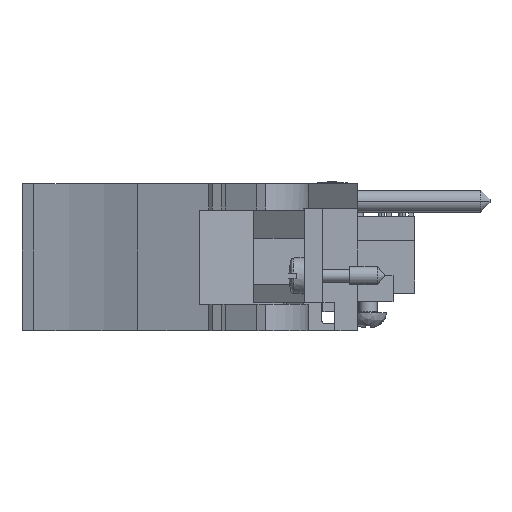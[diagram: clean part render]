
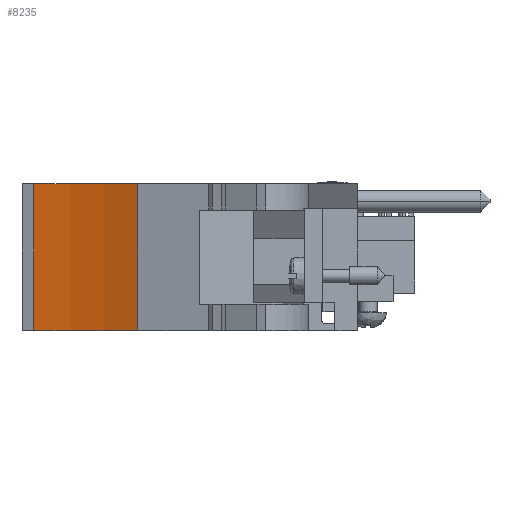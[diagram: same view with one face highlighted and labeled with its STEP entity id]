
A CAD part, front view. The second image highlights one B-rep face of the part: STEP entity #8235.
In plain terms, the highlighted cylindrical face has radius 51.46 mm (diameter 102.919 mm), a partial arc.
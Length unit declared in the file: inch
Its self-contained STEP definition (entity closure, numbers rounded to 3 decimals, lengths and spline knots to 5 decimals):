
#957=CARTESIAN_POINT('',(-6.04708,-5.95079,-0.0915));
#958=DIRECTION('',(0.,0.,1.));
#959=DIRECTION('',(0.435,0.9,0.));
#960=AXIS2_PLACEMENT_3D('',#957,#958,#959);
#1202=CARTESIAN_POINT('',(-6.04708,-5.95079,0.6965));
#1203=DIRECTION('',(0.,0.,1.));
#1204=DIRECTION('',(0.435,0.9,0.));
#1205=AXIS2_PLACEMENT_3D('',#1202,#1203,#1204);
#1473=DIRECTION('',(0.,0.,1.));
#1474=VECTOR('',#1473,0.788);
#1475=CARTESIAN_POINT('',(-5.72374,-3.95079,-0.0915));
#1476=LINE('',#1475,#1474);
#1481=DIRECTION('',(0.,0.,1.));
#1482=VECTOR('',#1481,0.788);
#1483=CARTESIAN_POINT('',(-5.16577,-4.12655,
-0.0915));
#1484=LINE('',#1483,#1482);
#5514=CARTESIAN_POINT('',(-5.16577,-4.12655,
-0.0915));
#5515=CARTESIAN_POINT('',(-5.72374,-3.95079,-0.0915));
#5516=VERTEX_POINT('',#5514);
#5517=VERTEX_POINT('',#5515);
#5518=CARTESIAN_POINT('',(-5.16577,-4.12655,
0.6965));
#5519=CARTESIAN_POINT('',(-5.72374,-3.95079,0.6965));
#5520=VERTEX_POINT('',#5518);
#5521=VERTEX_POINT('',#5519);
#8223=CARTESIAN_POINT('',(-6.04708,-5.95079,0.6965));
#8224=DIRECTION('',(0.,0.,1.));
#8225=DIRECTION('',(0.,1.,0.));
#8226=AXIS2_PLACEMENT_3D('',#8223,#8224,#8225);
#8227=CYLINDRICAL_SURFACE('',#8226,2.02597);
#8228=ORIENTED_EDGE('',*,*,#7586,.T.);
#8229=ORIENTED_EDGE('',*,*,#8215,.T.);
#8230=ORIENTED_EDGE('',*,*,#7820,.F.);
#8232=ORIENTED_EDGE('',*,*,#8231,.F.);
#8233=EDGE_LOOP('',(#8228,#8229,#8230,#8232));
#8234=FACE_OUTER_BOUND('',#8233,.F.);
#8235=ADVANCED_FACE('',(#8234),#8227,.F.);
#961=CIRCLE('',#960,2.02597);
#1206=CIRCLE('',#1205,2.02597);
#7586=EDGE_CURVE('',#5516,#5517,#961,.T.);
#7820=EDGE_CURVE('',#5520,#5521,#1206,.T.);
#8215=EDGE_CURVE('',#5517,#5521,#1476,.T.);
#8231=EDGE_CURVE('',#5516,#5520,#1484,.T.);
